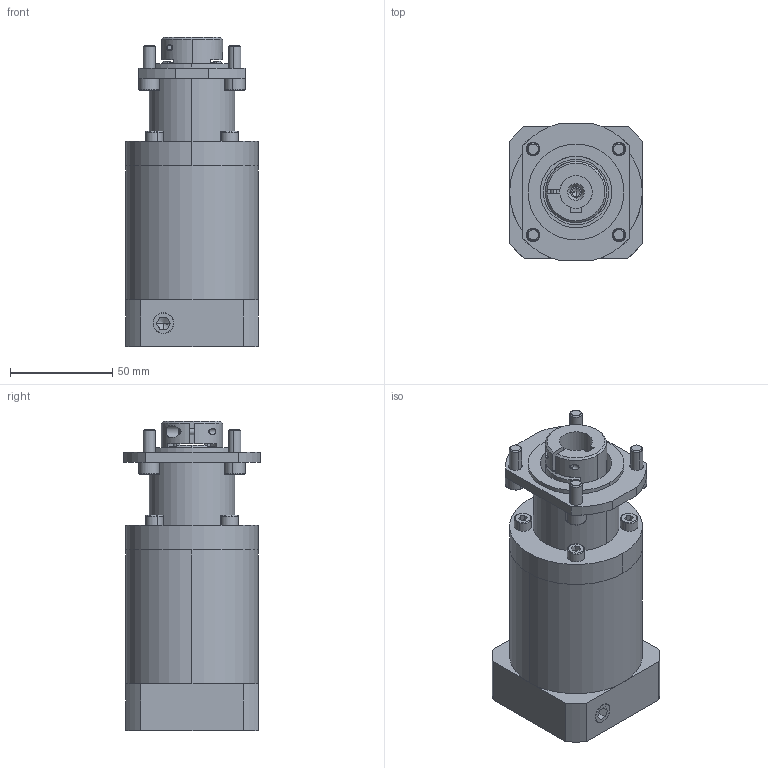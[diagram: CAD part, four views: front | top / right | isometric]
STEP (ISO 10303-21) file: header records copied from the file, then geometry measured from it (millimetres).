
FILE_DESCRIPTION (( 'STEP AP203' ), '1' );
FILE_NAME ('MAF060_MKU060_MPD065.STEP', '2013-09-30T13:40:48', ( 'Install' ), ( '' ), 'SwSTEP 2.0', 'SolidWorks 2013', '' );
FILE_SCHEMA (( 'CONFIG_CONTROL_DESIGN' ));
Length unit declared in the file: millimetre
Products named in the file (1): MAF060_MKU060_MPD065
Bounding box: 65 x 67 x 151.5 mm (x, y, z)
Volume: 373500.1 mm3; surface area: 78542.6 mm2
Topology: 15 solids, 19 shells, 576 faces, 1346 edges, 808 vertices
Faces by surface type: cylinder 219, plane 171, cone 146, torus 40
Entity records: 16792 total; most frequent: CARTESIAN_POINT 3462, DIRECTION 2991, ORIENTED_EDGE 2582, EDGE_CURVE 1291, AXIS2_PLACEMENT_3D 1211, VERTEX_POINT 808, EDGE_LOOP 659, CIRCLE 634
